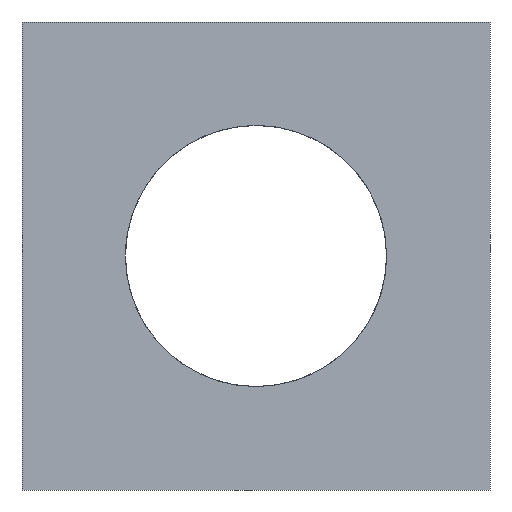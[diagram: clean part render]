
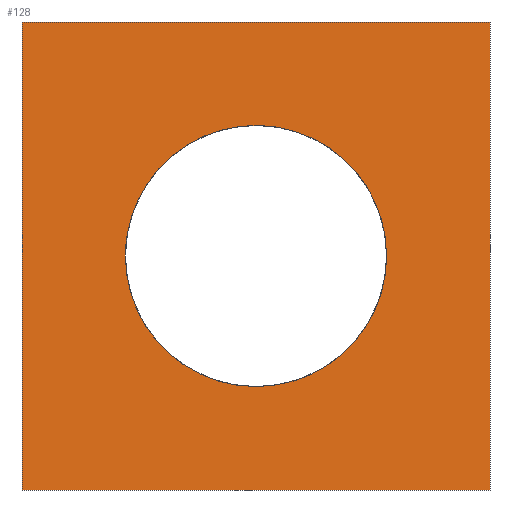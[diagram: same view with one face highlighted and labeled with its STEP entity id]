
A CAD part, front view. The second image highlights one B-rep face of the part: STEP entity #128.
In plain terms, the highlighted planar face has unit normal (0.138, -0.991, 0).
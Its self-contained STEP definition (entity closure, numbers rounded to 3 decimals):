
#18=FACE_BOUND('',#29,.T.);
#20=ELLIPSE('',#156,12.116,12.);
#21=FACE_OUTER_BOUND('',#28,.T.);
#28=EDGE_LOOP('',(#90,#91,#92,#93));
#29=EDGE_LOOP('',(#94));
#37=LINE('',#204,#50);
#38=LINE('',#206,#51);
#39=LINE('',#208,#52);
#40=LINE('',#209,#53);
#50=VECTOR('',#169,10.);
#51=VECTOR('',#170,10.);
#52=VECTOR('',#171,10.);
#53=VECTOR('',#172,10.);
#63=VERTEX_POINT('',#202);
#64=VERTEX_POINT('',#203);
#65=VERTEX_POINT('',#205);
#66=VERTEX_POINT('',#207);
#67=VERTEX_POINT('',#210);
#74=EDGE_CURVE('',#63,#64,#37,.T.);
#75=EDGE_CURVE('',#65,#63,#38,.T.);
#76=EDGE_CURVE('',#66,#65,#39,.T.);
#77=EDGE_CURVE('',#66,#64,#40,.T.);
#78=EDGE_CURVE('',#67,#67,#20,.T.);
#90=ORIENTED_EDGE('',*,*,#74,.F.);
#91=ORIENTED_EDGE('',*,*,#75,.F.);
#92=ORIENTED_EDGE('',*,*,#76,.F.);
#93=ORIENTED_EDGE('',*,*,#77,.T.);
#94=ORIENTED_EDGE('',*,*,#78,.F.);
#122=PLANE('',#155);
#128=ADVANCED_FACE('',(#21,#18),#122,.F.);
#155=AXIS2_PLACEMENT_3D('',#201,#167,#168);
#156=AXIS2_PLACEMENT_3D('',#211,#173,#174);
#167=DIRECTION('center_axis',(-0.138,0.99,0.));
#168=DIRECTION('ref_axis',(0.99,0.138,0.));
#169=DIRECTION('',(-0.99,-0.138,0.));
#170=DIRECTION('',(0.,0.,-1.));
#171=DIRECTION('',(0.99,0.138,0.));
#172=DIRECTION('',(0.,0.,-1.));
#173=DIRECTION('center_axis',(0.138,-0.99,0.));
#174=DIRECTION('ref_axis',(0.99,0.138,0.));
#201=CARTESIAN_POINT('Origin',(-21.5,-8.,21.5));
#202=CARTESIAN_POINT('',(21.5,-2.016,-21.5));
#203=CARTESIAN_POINT('',(-21.5,-8.,-21.5));
#204=CARTESIAN_POINT('',(-20.954,-7.924,-21.5));
#205=CARTESIAN_POINT('',(21.5,-2.016,21.5));
#206=CARTESIAN_POINT('',(21.5,-2.016,0.));
#207=CARTESIAN_POINT('',(-21.5,-8.,21.5));
#208=CARTESIAN_POINT('',(0.138,-4.989,21.5));
#209=CARTESIAN_POINT('',(-21.5,-8.,-21.5));
#210=CARTESIAN_POINT('',(-12.,-6.678,0.));
#211=CARTESIAN_POINT('Origin',(0.,-5.008,0.));
